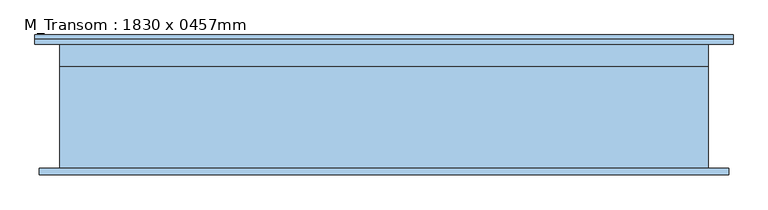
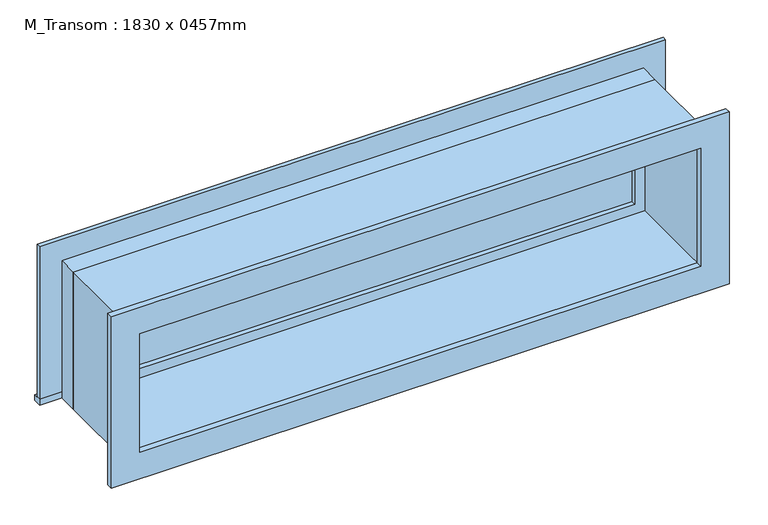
"""IFC4 building model written with IfcOpenShell, lengths in millimetres: window geometry, M_Transom : 1830 x 0457mm."""

from ifc_helpers import new_model, si_unit, frame, origin, place, context, project, spatial, polyline, outline, extrude, source, transform, mapped, element, save


def m_transom_1830_x_0457mm_4e4a5cc7(model_context):
    return source(origin(), model_context, "Body", "SweptSolid", [
        extrude(outline(polyline([(-1023.05, 200.7), (946.85, 200.7), (946.85, 175.0), (-1023.05, 175.0), (-1023.05, 200.7)])), frame((0.0, 0.0, 2159.0), z_axis=(0.0, 0.0, 1.0), x_axis=(1.0, 0.0, 0.0)), (0.0, 0.0, 1.0), 19.05),
        extrude(outline(polyline([(2596.95, -934.05), (2596.95, 857.85), (2178.05, 857.85), (2178.05, 946.85), (2685.95, 946.85), (2685.95, -1023.05), (2178.05, -1023.05), (2178.05, -934.05), (2596.95, -934.05)])), frame((0.0, 175.0, 0.0), z_axis=(0.0, 1.0, 0.0), x_axis=(0.0, 0.0, 1.0)), (0.0, 0.0, 1.0), 13.0),
        extrude(outline(polyline([(2673.25, 934.15), (2673.25, -1010.35), (2101.75, -1010.35), (2101.75, 934.15), (2673.25, 934.15)]), holes=[polyline([(2584.25, 845.15), (2190.75, 845.15), (2190.75, -921.35), (2584.25, -921.35), (2584.25, 845.15)])]), frame((0.0, -194.0, 0.0), z_axis=(0.0, 1.0, 0.0), x_axis=(0.0, 0.0, 1.0)), (0.0, 0.0, 1.0), 19.0),
        extrude(outline(polyline([(813.4, 127.425), (-889.6, 127.425), (-889.6, 140.125), (813.4, 140.125), (813.4, 127.425)])), frame((0.0, 0.0, 2222.5), z_axis=(0.0, 0.0, 1.0), x_axis=(1.0, 0.0, 0.0)), (0.0, 0.0, 1.0), 330.0),
        extrude(outline(polyline([(2596.95, -934.05), (2178.05, -934.05), (2178.05, 857.85), (2596.95, 857.85), (2596.95, -934.05)]), holes=[polyline([(2552.5, -889.6), (2552.5, 813.4), (2222.5, 813.4), (2222.5, -889.6), (2552.5, -889.6)])]), frame((0.0, 111.55, 0.0), z_axis=(0.0, 1.0, 0.0), x_axis=(0.0, 0.0, 1.0)), (0.0, 0.0, 1.0), 44.45),
        extrude(outline(polyline([(2616.0, -953.1), (2159.0, -953.1), (2159.0, 876.9), (2616.0, 876.9), (2616.0, -953.1)]), holes=[polyline([(2584.25, -921.35), (2584.25, 845.15), (2190.75, 845.15), (2190.75, -921.35), (2584.25, -921.35)])]), frame((0.0, -175.0, 0.0), z_axis=(0.0, 1.0, 0.0), x_axis=(0.0, 0.0, 1.0)), (0.0, 0.0, 1.0), 286.55),
        extrude(outline(polyline([(2616.0, 876.9), (2616.0, -953.1), (2159.0, -953.1), (2159.0, 876.9), (2616.0, 876.9)]), holes=[polyline([(2596.95, 857.85), (2178.05, 857.85), (2178.05, -934.05), (2596.95, -934.05), (2596.95, 857.85)])]), frame((0.0, 111.55, 0.0), z_axis=(0.0, 1.0, 0.0), x_axis=(0.0, 0.0, 1.0)), (0.0, 0.0, 1.0), 63.45),
    ])


if __name__ == "__main__":
    model = new_model("IFC4")
    model_context = context("Model", 3, world=origin())
    ifc_project = project(units=[si_unit("LENGTHUNIT", "METRE", prefix="MILLI")], contexts=[model_context])
    site = spatial("IfcSite", under=ifc_project)
    building = spatial("IfcBuilding", under=site)
    placement = place(None, origin())
    m_transom_1830_x_0457mm_shape = m_transom_1830_x_0457mm_4e4a5cc7(model_context)
    element("IfcWindow", 1, ObjectType="M_Transom : 1830 x 0457mm", at=placement, inside=building, context=model_context, shape_type="MappedRepresentation", body=[
        mapped(m_transom_1830_x_0457mm_shape, transform((0.0, 0.0, 0.0), x_axis=(1.0, 0.0, 0.0), y_axis=(0.0, 1.0, 0.0), z_axis=(0.0, 0.0, 1.0))),
    ])
    save(model, "model.ifc")
